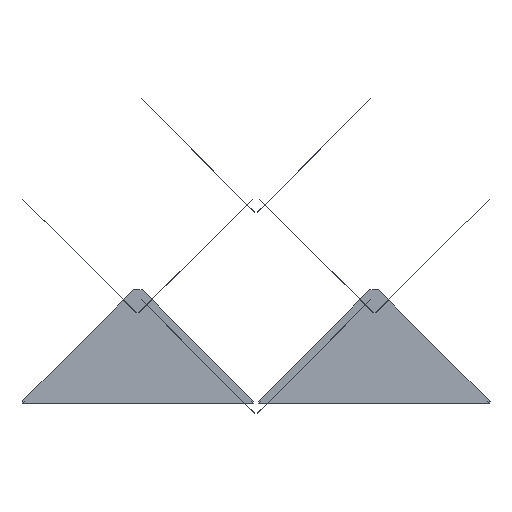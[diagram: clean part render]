
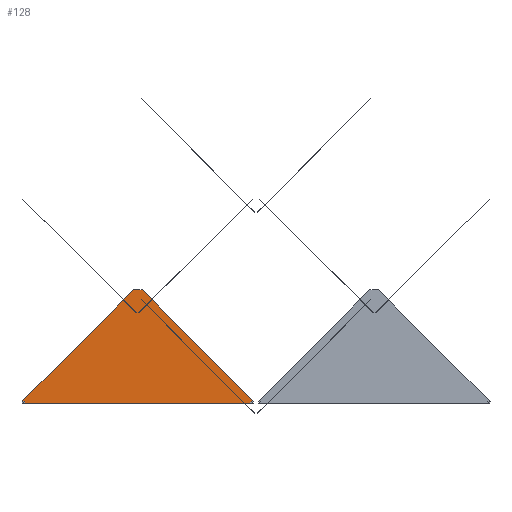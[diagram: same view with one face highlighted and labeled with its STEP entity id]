
A CAD part, top view. The second image highlights one B-rep face of the part: STEP entity #128.
In plain terms, the highlighted planar face has unit normal (0.001, -0.001, 1).
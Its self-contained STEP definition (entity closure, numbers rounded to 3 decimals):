
#22=PLANE('',#1063);
#128=ADVANCED_FACE('',(#152),#22,.T.);
#152=FACE_OUTER_BOUND('',#176,.T.);
#176=EDGE_LOOP('',(#325,#326,#327,#328,#329,#330,#331,#332,#333,#334,#335,
#336,#337,#338,#339,#340,#341,#342,#343));
#325=ORIENTED_EDGE('',*,*,#535,.F.);
#326=ORIENTED_EDGE('',*,*,#536,.F.);
#327=ORIENTED_EDGE('',*,*,#538,.F.);
#328=ORIENTED_EDGE('',*,*,#543,.T.);
#329=ORIENTED_EDGE('',*,*,#544,.T.);
#330=ORIENTED_EDGE('',*,*,#545,.T.);
#331=ORIENTED_EDGE('',*,*,#546,.T.);
#332=ORIENTED_EDGE('',*,*,#537,.T.);
#333=ORIENTED_EDGE('',*,*,#542,.T.);
#334=ORIENTED_EDGE('',*,*,#551,.T.);
#335=ORIENTED_EDGE('',*,*,#552,.T.);
#336=ORIENTED_EDGE('',*,*,#548,.T.);
#337=ORIENTED_EDGE('',*,*,#541,.T.);
#338=ORIENTED_EDGE('',*,*,#539,.T.);
#339=ORIENTED_EDGE('',*,*,#540,.T.);
#340=ORIENTED_EDGE('',*,*,#549,.T.);
#341=ORIENTED_EDGE('',*,*,#553,.T.);
#342=ORIENTED_EDGE('',*,*,#550,.T.);
#343=ORIENTED_EDGE('',*,*,#547,.F.);
#535=EDGE_CURVE('',#961,#962,#751,.T.);
#536=EDGE_CURVE('',#963,#961,#752,.T.);
#537=EDGE_CURVE('',#964,#965,#753,.T.);
#538=EDGE_CURVE('',#966,#963,#754,.T.);
#539=EDGE_CURVE('',#968,#977,#755,.T.);
#540=EDGE_CURVE('',#977,#967,#756,.T.);
#541=EDGE_CURVE('',#971,#968,#757,.T.);
#542=EDGE_CURVE('',#965,#971,#758,.T.);
#543=EDGE_CURVE('',#966,#973,#759,.T.);
#544=EDGE_CURVE('',#973,#974,#760,.T.);
#545=EDGE_CURVE('',#974,#975,#761,.T.);
#546=EDGE_CURVE('',#975,#964,#762,.T.);
#547=EDGE_CURVE('',#962,#976,#763,.T.);
#548=EDGE_CURVE('',#970,#971,#764,.T.);
#549=EDGE_CURVE('',#967,#971,#765,.T.);
#550=EDGE_CURVE('',#969,#976,#766,.T.);
#551=EDGE_CURVE('',#971,#972,#767,.T.);
#552=EDGE_CURVE('',#972,#970,#768,.T.);
#553=EDGE_CURVE('',#971,#969,#769,.T.);
#751=B_SPLINE_CURVE_WITH_KNOTS('',1,(#1872,#1873),.UNSPECIFIED.,.F.,.F.,
(2,2),(-639.908,0.),.UNSPECIFIED.);
#752=B_SPLINE_CURVE_WITH_KNOTS('',1,(#1874,#1875),.UNSPECIFIED.,.F.,.F.,
(2,2),(-10.817,0.),.UNSPECIFIED.);
#753=B_SPLINE_CURVE_WITH_KNOTS('',1,(#1876,#1877),.UNSPECIFIED.,.F.,.F.,
(2,2),(0.,25.252),.UNSPECIFIED.);
#754=B_SPLINE_CURVE_WITH_KNOTS('',1,(#1878,#1879),.UNSPECIFIED.,.F.,.F.,
(2,2),(0.,0.276),.UNSPECIFIED.);
#755=B_SPLINE_CURVE_WITH_KNOTS('',1,(#1880,#1881),.UNSPECIFIED.,.F.,.F.,
(2,2),(0.,0.01),.UNSPECIFIED.);
#756=B_SPLINE_CURVE_WITH_KNOTS('',1,(#1882,#1883),.UNSPECIFIED.,.F.,.F.,
(2,2),(0.01,0.01),.UNSPECIFIED.);
#757=B_SPLINE_CURVE_WITH_KNOTS('',1,(#1884,#1885),.UNSPECIFIED.,.F.,.F.,
(2,2),(0.,0.01),.UNSPECIFIED.);
#758=B_SPLINE_CURVE_WITH_KNOTS('',1,(#1886,#1887),.UNSPECIFIED.,.F.,.F.,
(2,2),(0.,445.159),.UNSPECIFIED.);
#759=B_SPLINE_CURVE_WITH_KNOTS('',1,(#1888,#1889),.UNSPECIFIED.,.F.,.F.,
(2,2),(0.,0.01),.UNSPECIFIED.);
#760=B_SPLINE_CURVE_WITH_KNOTS('',1,(#1890,#1891),.UNSPECIFIED.,.F.,.F.,
(2,2),(0.,0.01),.UNSPECIFIED.);
#761=B_SPLINE_CURVE_WITH_KNOTS('',1,(#1892,#1893),.UNSPECIFIED.,.F.,.F.,
(2,2),(0.,0.01),.UNSPECIFIED.);
#762=B_SPLINE_CURVE_WITH_KNOTS('',1,(#1894,#1895),.UNSPECIFIED.,.F.,.F.,
(2,2),(-445.159,0.),.UNSPECIFIED.);
#763=B_SPLINE_CURVE_WITH_KNOTS('',1,(#1896,#1897),.UNSPECIFIED.,.F.,.F.,
(2,2),(-10.817,0.),.UNSPECIFIED.);
#764=B_SPLINE_CURVE_WITH_KNOTS('',1,(#1898,#1899),.UNSPECIFIED.,.F.,.F.,
(2,2),(0.,0.),.UNSPECIFIED.);
#765=B_SPLINE_CURVE_WITH_KNOTS('',1,(#1900,#1901),.UNSPECIFIED.,.F.,.F.,
(2,2),(0.,0.01),.UNSPECIFIED.);
#766=B_SPLINE_CURVE_WITH_KNOTS('',1,(#1902,#1903),.UNSPECIFIED.,.F.,.F.,
(2,2),(0.,0.276),.UNSPECIFIED.);
#767=B_SPLINE_CURVE_WITH_KNOTS('',1,(#1904,#1905),.UNSPECIFIED.,.F.,.F.,
(2,2),(445.159,445.159),.UNSPECIFIED.);
#768=B_SPLINE_CURVE_WITH_KNOTS('',1,(#1906,#1907),.UNSPECIFIED.,.F.,.F.,
(2,2),(445.159,445.159),.UNSPECIFIED.);
#769=B_SPLINE_CURVE_WITH_KNOTS('',1,(#1908,#1909),.UNSPECIFIED.,.F.,.F.,
(2,2),(0.01,0.01),.UNSPECIFIED.);
#961=VERTEX_POINT('',#1855);
#962=VERTEX_POINT('',#1856);
#963=VERTEX_POINT('',#1857);
#964=VERTEX_POINT('',#1858);
#965=VERTEX_POINT('',#1859);
#966=VERTEX_POINT('',#1860);
#967=VERTEX_POINT('',#1861);
#968=VERTEX_POINT('',#1862);
#969=VERTEX_POINT('',#1863);
#970=VERTEX_POINT('',#1864);
#971=VERTEX_POINT('',#1865);
#972=VERTEX_POINT('',#1866);
#973=VERTEX_POINT('',#1867);
#974=VERTEX_POINT('',#1868);
#975=VERTEX_POINT('',#1869);
#976=VERTEX_POINT('',#1870);
#977=VERTEX_POINT('',#1871);
#1063=AXIS2_PLACEMENT_3D('',#1854,#1081,$);
#1081=DIRECTION('',(0.,0.,1.));
#1854=CARTESIAN_POINT('',(256.671,-374.76,3.769));
#1855=CARTESIAN_POINT('',(-10.129,-529.425,3.823));
#1856=CARTESIAN_POINT('',(-650.036,-529.425,4.128));
#1857=CARTESIAN_POINT('',(-2.48,-521.776,3.823));
#1858=CARTESIAN_POINT('',(-317.456,-206.8,4.123));
#1859=CARTESIAN_POINT('',(-342.708,-206.8,4.135));
#1860=CARTESIAN_POINT('',(-2.675,-521.581,3.823));
#1861=CARTESIAN_POINT('',(-657.483,-521.588,4.135));
#1862=CARTESIAN_POINT('',(-657.476,-521.581,4.135));
#1863=CARTESIAN_POINT('',(-657.49,-521.581,4.135));
#1864=CARTESIAN_POINT('',(-657.483,-521.574,4.135));
#1865=CARTESIAN_POINT('',(-657.483,-521.574,4.135));
#1866=CARTESIAN_POINT('',(-657.483,-521.574,4.135));
#1867=CARTESIAN_POINT('',(-2.682,-521.588,3.823));
#1868=CARTESIAN_POINT('',(-2.689,-521.581,3.823));
#1869=CARTESIAN_POINT('',(-2.682,-521.574,3.823));
#1870=CARTESIAN_POINT('',(-657.685,-521.776,4.135));
#1871=CARTESIAN_POINT('',(-657.49,-521.581,4.135));
#1872=CARTESIAN_POINT('',(-10.129,-529.425,3.823));
#1873=CARTESIAN_POINT('',(-650.036,-529.425,4.128));
#1874=CARTESIAN_POINT('',(-2.48,-521.776,3.823));
#1875=CARTESIAN_POINT('',(-10.129,-529.425,3.823));
#1876=CARTESIAN_POINT('',(-317.456,-206.8,4.123));
#1877=CARTESIAN_POINT('',(-342.708,-206.8,4.135));
#1878=CARTESIAN_POINT('',(-2.675,-521.581,3.823));
#1879=CARTESIAN_POINT('',(-2.48,-521.776,3.823));
#1880=CARTESIAN_POINT('',(-657.476,-521.581,4.135));
#1881=CARTESIAN_POINT('',(-657.49,-521.581,4.135));
#1882=CARTESIAN_POINT('',(-657.49,-521.581,4.135));
#1883=CARTESIAN_POINT('',(-657.483,-521.588,4.135));
#1884=CARTESIAN_POINT('',(-657.483,-521.574,4.135));
#1885=CARTESIAN_POINT('',(-657.476,-521.581,4.135));
#1886=CARTESIAN_POINT('',(-342.708,-206.8,4.135));
#1887=CARTESIAN_POINT('',(-657.483,-521.574,4.135));
#1888=CARTESIAN_POINT('',(-2.675,-521.581,3.823));
#1889=CARTESIAN_POINT('',(-2.682,-521.588,3.823));
#1890=CARTESIAN_POINT('',(-2.682,-521.588,3.823));
#1891=CARTESIAN_POINT('',(-2.689,-521.581,3.823));
#1892=CARTESIAN_POINT('',(-2.689,-521.581,3.823));
#1893=CARTESIAN_POINT('',(-2.682,-521.574,3.823));
#1894=CARTESIAN_POINT('',(-2.682,-521.574,3.823));
#1895=CARTESIAN_POINT('',(-317.456,-206.8,4.123));
#1896=CARTESIAN_POINT('',(-650.036,-529.425,4.128));
#1897=CARTESIAN_POINT('',(-657.685,-521.776,4.135));
#1898=CARTESIAN_POINT('',(-657.483,-521.574,4.135));
#1899=CARTESIAN_POINT('',(-657.483,-521.574,4.135));
#1900=CARTESIAN_POINT('',(-657.483,-521.588,4.135));
#1901=CARTESIAN_POINT('',(-657.483,-521.574,4.135));
#1902=CARTESIAN_POINT('',(-657.49,-521.581,4.135));
#1903=CARTESIAN_POINT('',(-657.685,-521.776,4.135));
#1904=CARTESIAN_POINT('',(-657.483,-521.574,4.135));
#1905=CARTESIAN_POINT('',(-657.483,-521.574,4.135));
#1906=CARTESIAN_POINT('',(-657.483,-521.574,4.135));
#1907=CARTESIAN_POINT('',(-657.483,-521.574,4.135));
#1908=CARTESIAN_POINT('',(-657.483,-521.574,4.135));
#1909=CARTESIAN_POINT('',(-657.49,-521.581,4.135));
